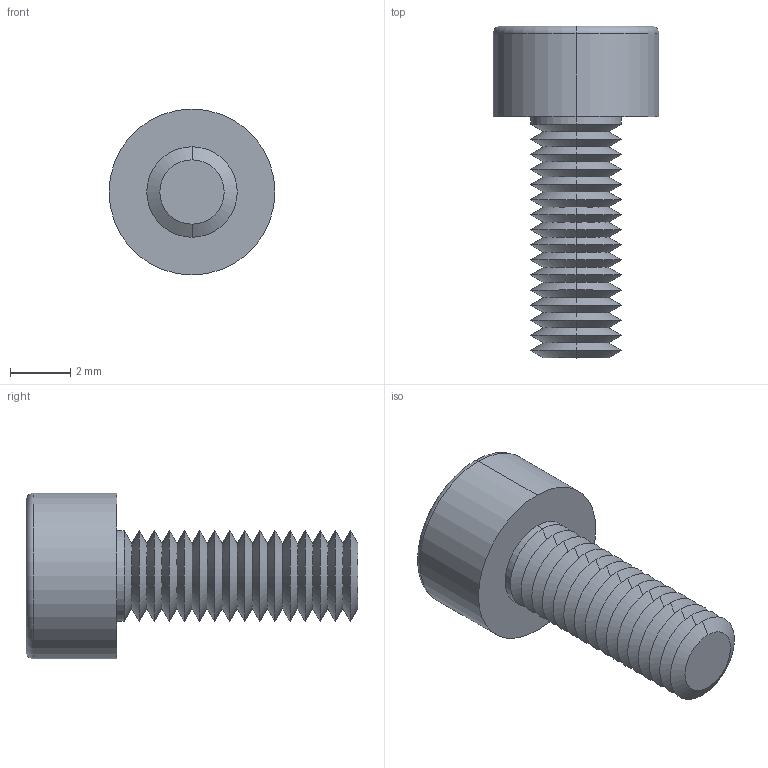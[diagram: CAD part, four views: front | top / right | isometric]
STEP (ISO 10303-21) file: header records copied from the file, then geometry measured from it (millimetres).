
FILE_DESCRIPTION (( 'STEP AP203' ), '1' );
FILE_NAME ('91N.030.0080.step', '2025-05-20T08:49:43', ( '' ), ( '' ), 'SwSTEP 2.0', 'SolidWorks 2019', '' );
FILE_SCHEMA (( 'CONFIG_CONTROL_DESIGN' ));
Length unit declared in the file: millimetre
Products named in the file (1): 91N.030.0080
Bounding box: 5.5 x 11 x 5.5 mm (x, y, z)
Volume: 98.6 mm3; surface area: 243.5 mm2
Topology: 1 solids, 1 shells, 92 faces, 183 edges, 93 vertices
Faces by surface type: cone 71, plane 15, cylinder 4, torus 2
Entity records: 2378 total; most frequent: DIRECTION 447, CARTESIAN_POINT 394, ORIENTED_EDGE 362, EDGE_CURVE 181, AXIS2_PLACEMENT_3D 180, EDGE_LOOP 94, VERTEX_POINT 93, FACE_OUTER_BOUND 92
